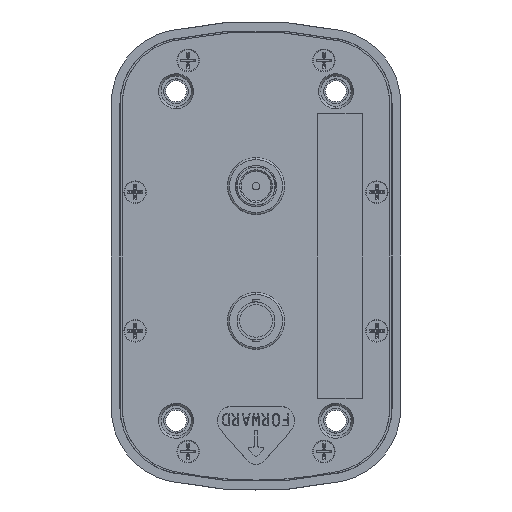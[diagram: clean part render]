
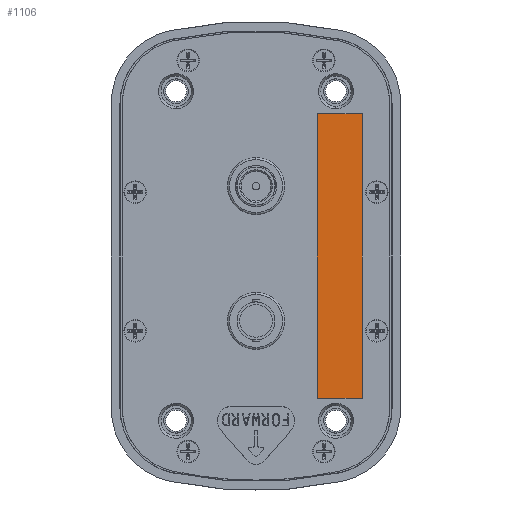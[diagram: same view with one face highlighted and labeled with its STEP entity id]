
A CAD part, front view. The second image highlights one B-rep face of the part: STEP entity #1106.
In plain terms, the highlighted planar face has unit normal (0, -1, 0).
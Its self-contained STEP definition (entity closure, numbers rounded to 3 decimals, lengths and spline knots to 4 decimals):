
#1072 = VERTEX_POINT ( 'NONE', #12600 ) ;
#1074 = EDGE_CURVE ( 'NONE', #1075, #1072, #12597, .T. ) ;
#1075 = VERTEX_POINT ( 'NONE', #12590 ) ;
#1106 = ADVANCED_FACE ( 'NONE', ( #12770 ), #12917, .T. ) ;
#1107 = EDGE_LOOP ( 'NONE', ( #1108, #1109, #1110, #1111 ) ) ;
#1108 = ORIENTED_EDGE ( 'NONE', *, *, #1074, .T. ) ;
#1109 = ORIENTED_EDGE ( 'NONE', *, *, #1129, .T. ) ;
#1110 = ORIENTED_EDGE ( 'NONE', *, *, #1120, .T. ) ;
#1111 = ORIENTED_EDGE ( 'NONE', *, *, #1135, .T. ) ;
#1120 = EDGE_CURVE ( 'NONE', #1121, #1136, #13003, .T. ) ;
#1121 = VERTEX_POINT ( 'NONE', #12995 ) ;
#1129 = EDGE_CURVE ( 'NONE', #1072, #1121, #12333, .T. ) ;
#1135 = EDGE_CURVE ( 'NONE', #1136, #1075, #13098, .T. ) ;
#1136 = VERTEX_POINT ( 'NONE', #13091 ) ;
#12331 = CARTESIAN_POINT ( 'NONE',  ( 0.615, 0.01, -1.4248 ) ) ;
#12333 = LINE ( 'NONE', #12331, #12338 ) ;
#12336 = DIRECTION ( 'NONE',  ( 1., 0., 0. ) ) ;
#12338 = VECTOR ( 'NONE', #12336, 39.3701 ) ;
#12590 = CARTESIAN_POINT ( 'NONE',  ( 0.6152, 0.01, 1.4248 ) ) ;
#12592 = DIRECTION ( 'NONE',  ( 0., 0., -1. ) ) ;
#12594 = VECTOR ( 'NONE', #12592, 39.3701 ) ;
#12595 = CARTESIAN_POINT ( 'NONE',  ( 0.6152, 0.01, 1.425 ) ) ;
#12597 = LINE ( 'NONE', #12595, #12594 ) ;
#12600 = CARTESIAN_POINT ( 'NONE',  ( 0.6152, 0.01, -1.4248 ) ) ;
#12770 = FACE_OUTER_BOUND ( 'NONE', #1107, .T. ) ;
#12917 = PLANE ( 'NONE',  #13025 ) ;
#12995 = CARTESIAN_POINT ( 'NONE',  ( 1.0648, 0.01, -1.4248 ) ) ;
#12998 = DIRECTION ( 'NONE',  ( 0., 0., 1. ) ) ;
#12999 = VECTOR ( 'NONE', #12998, 39.3701 ) ;
#13001 = CARTESIAN_POINT ( 'NONE',  ( 1.0648, 0.01, 1.425 ) ) ;
#13003 = LINE ( 'NONE', #13001, #12999 ) ;
#13020 = DIRECTION ( 'NONE',  ( 0., 0., -1. ) ) ;
#13022 = DIRECTION ( 'NONE',  ( 0., -1., 0. ) ) ;
#13023 = CARTESIAN_POINT ( 'NONE',  ( 0.615, 0.01, 1.425 ) ) ;
#13025 = AXIS2_PLACEMENT_3D ( 'NONE', #13023, #13022, #13020 ) ;
#13091 = CARTESIAN_POINT ( 'NONE',  ( 1.0648, 0.01, 1.4248 ) ) ;
#13093 = DIRECTION ( 'NONE',  ( -1., 0., 0. ) ) ;
#13095 = VECTOR ( 'NONE', #13093, 39.3701 ) ;
#13096 = CARTESIAN_POINT ( 'NONE',  ( 0.615, 0.01, 1.4248 ) ) ;
#13098 = LINE ( 'NONE', #13096, #13095 ) ;
